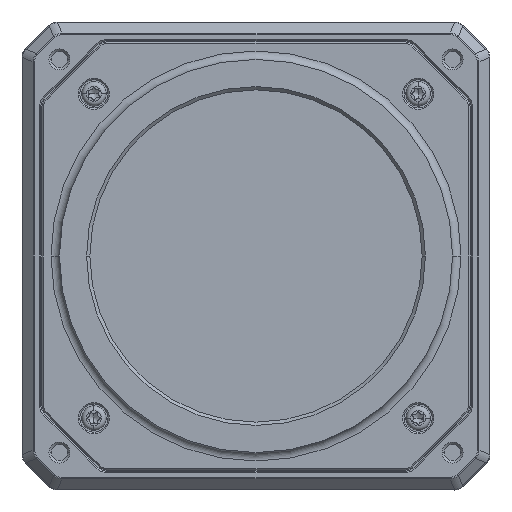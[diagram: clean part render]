
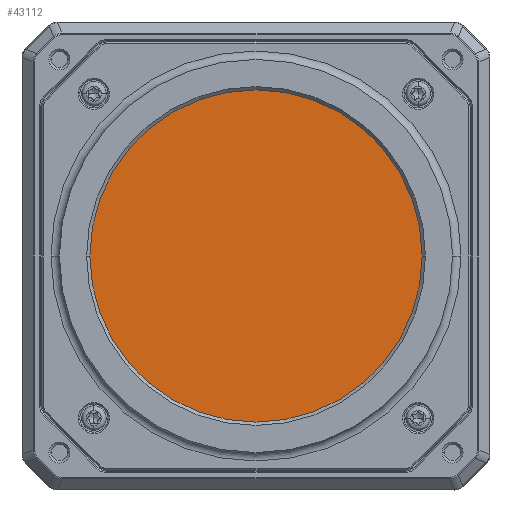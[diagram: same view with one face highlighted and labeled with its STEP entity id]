
A CAD part, left-side view. The second image highlights one B-rep face of the part: STEP entity #43112.
In plain terms, the highlighted planar face has unit normal (-1, 0, 0).
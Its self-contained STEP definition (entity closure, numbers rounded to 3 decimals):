
#10074=CARTESIAN_POINT('',(4.683,0.,0.));
#10075=DIRECTION('',(1.,0.,0.));
#10076=DIRECTION('',(0.,1.,0.));
#10077=AXIS2_PLACEMENT_3D('',#10074,#10075,#10076);
#10092=CARTESIAN_POINT('',(4.683,0.,0.));
#10093=DIRECTION('',(1.,0.,0.));
#10094=DIRECTION('',(0.,-1.,0.));
#10095=AXIS2_PLACEMENT_3D('',#10092,#10093,#10094);
#28481=CARTESIAN_POINT('',(4.683,-35.5,0.));
#28482=CARTESIAN_POINT('',(4.683,35.5,0.));
#28483=VERTEX_POINT('',#28481);
#28484=VERTEX_POINT('',#28482);
#43102=CARTESIAN_POINT('',(4.683,0.,0.));
#43103=DIRECTION('',(1.,0.,0.));
#43104=DIRECTION('',(0.,0.,-1.));
#43105=AXIS2_PLACEMENT_3D('',#43102,#43103,#43104);
#43106=PLANE('',#43105);
#43108=ORIENTED_EDGE('',*,*,#43107,.T.);
#43109=ORIENTED_EDGE('',*,*,#43092,.T.);
#43110=EDGE_LOOP('',(#43108,#43109));
#43111=FACE_OUTER_BOUND('',#43110,.F.);
#43112=ADVANCED_FACE('',(#43111),#43106,.F.);
#10078=CIRCLE('',#10077,35.5);
#10096=CIRCLE('',#10095,35.5);
#43092=EDGE_CURVE('',#28484,#28483,#10078,.T.);
#43107=EDGE_CURVE('',#28483,#28484,#10096,.T.);
